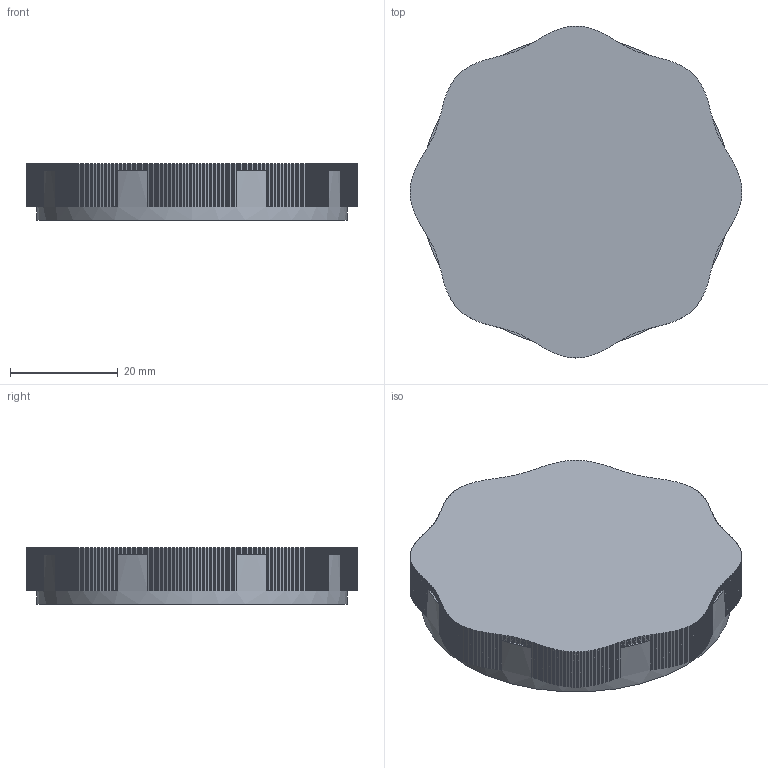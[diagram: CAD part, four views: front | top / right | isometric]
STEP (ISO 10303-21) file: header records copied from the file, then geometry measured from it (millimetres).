
FILE_DESCRIPTION(('Open CASCADE Model'),'2;1');
FILE_NAME('Open CASCADE Shape Model','2026-11-03T18:39:04',('Author'),( 'Open CASCADE'),'Open CASCADE STEP processor 7.9','Open CASCADE 7.9' ,'Unknown');
FILE_SCHEMA(('AUTOMOTIVE_DESIGN { 1 0 10303 214 1 1 1 1 }'));
Products named in the file (1): Open CASCADE STEP translator 7.9 10
Bounding box: 61.6 x 61.6 x 10.5 mm (x, y, z)
Volume: 9504.1 mm3; surface area: 9059.9 mm2
Topology: 1 solids, 1 shells, 747 faces, 2223 edges, 1482 vertices
Faces by surface type: plane 742, cylinder 5
Full cylindrical faces by diameter (mm): 5.2 x1, 7 x1, 50 x1, 51.95 x1, 57.6 x1
Entity records: 53037 total; most frequent: CARTESIAN_POINT 9413, DIRECTION 7732, LINE 6169, VECTOR 6169, ORIENTED_EDGE 4446, PCURVE 4446, DEFINITIONAL_REPRESENTATION 4446, EDGE_CURVE 2223
